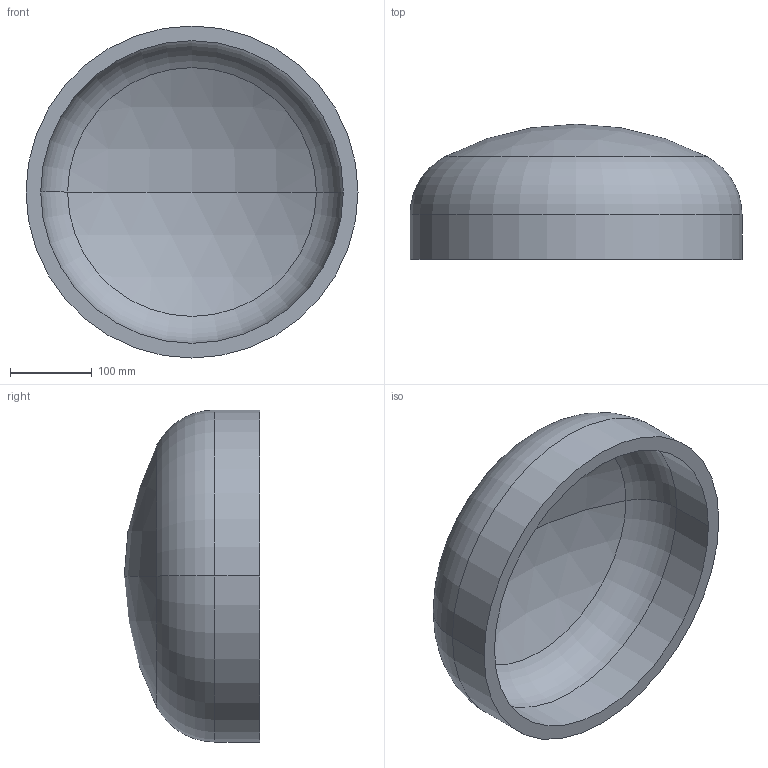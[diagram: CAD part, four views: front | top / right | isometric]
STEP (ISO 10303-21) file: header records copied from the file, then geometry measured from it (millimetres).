
FILE_DESCRIPTION (( 'STEP AP203' ), '1' );
FILE_NAME ('DIN 28013 Korbbogenform_-_Boden DIN 28013 - 406,4 x 55 - I - s=18.step', '2016-07-01T07:49:25', ( '' ), ( '' ), 'SwSTEP 2.0', 'SolidWorks 2013', '' );
FILE_SCHEMA (( 'CONFIG_CONTROL_DESIGN' ));
Length unit declared in the file: millimetre
Products named in the file (1): DIN 28013 Korbbogenform_-_Boden DIN 28013 - 406,4 x 55 - I - s=18
Bounding box: 406.4 x 165.64 x 406.4 mm (x, y, z)
Volume: 4256320.2 mm3; surface area: 495566.4 mm2
Topology: 1 solids, 1 shells, 13 faces, 24 edges, 14 vertices
Faces by surface type: torus 4, cylinder 4, sphere 4, plane 1
Entity records: 407 total; most frequent: DIRECTION 72, CARTESIAN_POINT 52, ORIENTED_EDGE 48, AXIS2_PLACEMENT_3D 34, EDGE_CURVE 24, CIRCLE 20, EDGE_LOOP 14, VERTEX_POINT 14
